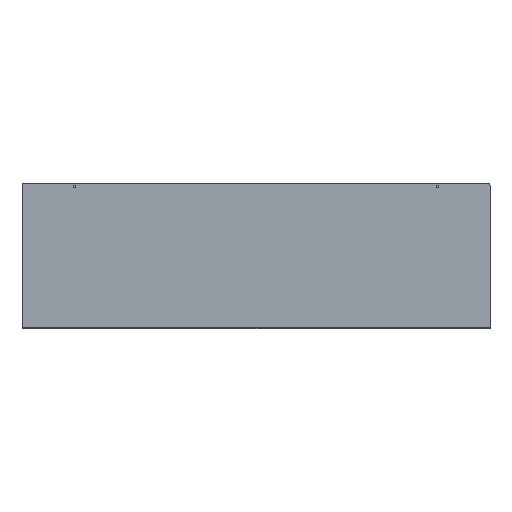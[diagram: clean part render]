
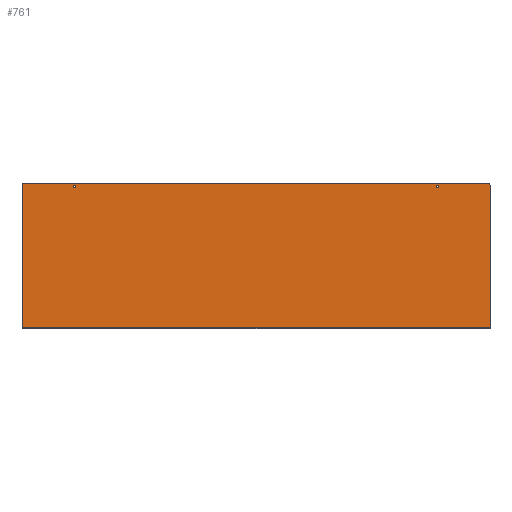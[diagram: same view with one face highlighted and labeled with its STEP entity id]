
A CAD part, top view. The second image highlights one B-rep face of the part: STEP entity #761.
In plain terms, the highlighted planar face has unit normal (0, 0, 1).
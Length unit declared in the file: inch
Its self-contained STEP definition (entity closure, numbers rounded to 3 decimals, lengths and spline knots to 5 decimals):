
#163=CARTESIAN_POINT('',(17.625,5.5,0.055));
#164=VERTEX_POINT('',#163);
#165=CARTESIAN_POINT('',(17.75,5.375,0.055));
#166=VERTEX_POINT('',#165);
#167=CARTESIAN_POINT('',(17.625,5.375,0.055));
#168=DIRECTION('',(0.0,0.0,-1.0));
#169=DIRECTION('',(0.707,0.707,0.0));
#170=AXIS2_PLACEMENT_3D('',#167,#168,#169);
#171=CIRCLE('',#170,0.125);
#172=EDGE_CURVE('',#164,#166,#171,.T.);
#214=CARTESIAN_POINT('',(-17.625,5.5,0.055));
#215=VERTEX_POINT('',#214);
#222=CARTESIAN_POINT('',(-17.625,5.5,0.055));
#223=DIRECTION('',(1.0,0.0,0.0));
#224=VECTOR('',#223,35.25);
#225=LINE('',#222,#224);
#226=EDGE_CURVE('',#215,#164,#225,.T.);
#299=CARTESIAN_POINT('',(-17.75,5.375,0.055));
#300=VERTEX_POINT('',#299);
#301=CARTESIAN_POINT('',(-17.625,5.375,0.055));
#302=DIRECTION('',(0.0,0.0,-1.0));
#303=DIRECTION('',(-0.707,0.707,0.0));
#304=AXIS2_PLACEMENT_3D('',#301,#302,#303);
#305=CIRCLE('',#304,0.125);
#306=EDGE_CURVE('',#300,#215,#305,.T.);
#326=CARTESIAN_POINT('',(-17.75,-5.414,0.055));
#327=VERTEX_POINT('',#326);
#334=CARTESIAN_POINT('',(-17.75,-5.414,0.055));
#335=DIRECTION('',(0.0,1.0,0.0));
#336=VECTOR('',#335,10.789);
#337=LINE('',#334,#336);
#338=EDGE_CURVE('',#327,#300,#337,.T.);
#558=CARTESIAN_POINT('',(-13.8385,5.25,0.055));
#559=VERTEX_POINT('',#558);
#560=CARTESIAN_POINT('',(-13.75,5.25,0.055));
#561=DIRECTION('',(0.0,0.0,-1.0));
#562=DIRECTION('',(1.0,0.0,0.0));
#563=AXIS2_PLACEMENT_3D('',#560,#561,#562);
#564=CIRCLE('',#563,0.0885);
#565=EDGE_CURVE('',#559,#559,#564,.T.);
#578=CARTESIAN_POINT('',(13.6615,5.25,0.055));
#579=VERTEX_POINT('',#578);
#580=CARTESIAN_POINT('',(13.75,5.25,0.055));
#581=DIRECTION('',(0.0,0.0,-1.0));
#582=DIRECTION('',(1.0,0.0,0.0));
#583=AXIS2_PLACEMENT_3D('',#580,#581,#582);
#584=CIRCLE('',#583,0.0885);
#585=EDGE_CURVE('',#579,#579,#584,.T.);
#647=CARTESIAN_POINT('',(17.75,-5.414,0.055));
#648=VERTEX_POINT('',#647);
#715=CARTESIAN_POINT('',(-17.75,-5.414,0.055));
#716=DIRECTION('',(1.0,0.0,0.0));
#717=VECTOR('',#716,35.5);
#718=LINE('',#715,#717);
#719=EDGE_CURVE('',#327,#648,#718,.T.);
#731=CARTESIAN_POINT('',(17.75,5.375,0.055));
#732=DIRECTION('',(0.0,-1.0,0.0));
#733=VECTOR('',#732,10.789);
#734=LINE('',#731,#733);
#735=EDGE_CURVE('',#166,#648,#734,.T.);
#742=CARTESIAN_POINT('',(0.0,0.,0.055));
#743=DIRECTION('',(0.0,0.0,1.0));
#744=DIRECTION('',(1.0,0.0,0.0));
#745=AXIS2_PLACEMENT_3D('',#742,#743,#744);
#746=PLANE('',#745);
#747=ORIENTED_EDGE('',*,*,#172,.F.);
#748=ORIENTED_EDGE('',*,*,#226,.F.);
#749=ORIENTED_EDGE('',*,*,#306,.F.);
#750=ORIENTED_EDGE('',*,*,#338,.F.);
#751=ORIENTED_EDGE('',*,*,#719,.T.);
#752=ORIENTED_EDGE('',*,*,#735,.F.);
#753=EDGE_LOOP('',(#747,#748,#749,#750,#751,#752));
#754=FACE_OUTER_BOUND('',#753,.T.);
#755=ORIENTED_EDGE('',*,*,#565,.T.);
#756=EDGE_LOOP('',(#755));
#757=FACE_BOUND('',#756,.T.);
#758=ORIENTED_EDGE('',*,*,#585,.T.);
#759=EDGE_LOOP('',(#758));
#760=FACE_BOUND('',#759,.T.);
#761=ADVANCED_FACE('',(#754,#757,#760),#746,.T.);
